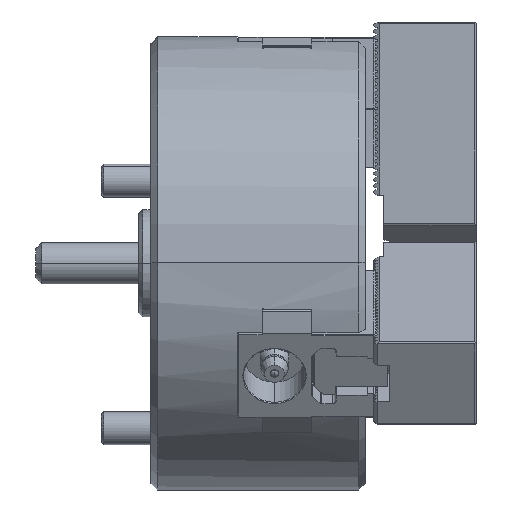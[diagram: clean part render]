
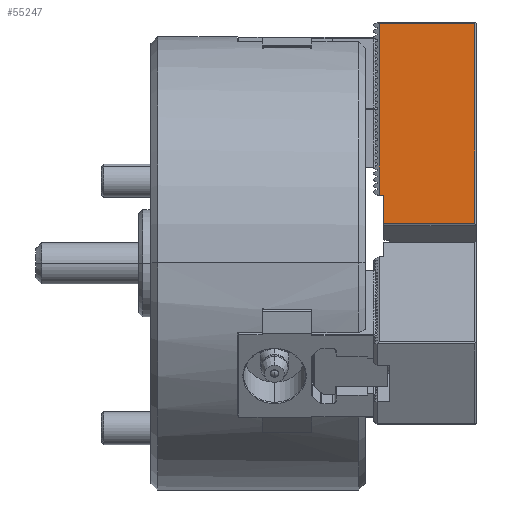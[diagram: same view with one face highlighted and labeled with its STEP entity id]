
A CAD part, top view. The second image highlights one B-rep face of the part: STEP entity #55247.
In plain terms, the highlighted planar face has unit normal (0, 0, 1).
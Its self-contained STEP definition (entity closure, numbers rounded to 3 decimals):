
#2441 = VERTEX_POINT ( 'NONE', #17924 ) ;
#2559 = FACE_OUTER_BOUND ( 'NONE', #30370, .T. ) ;
#5018 = CARTESIAN_POINT ( 'NONE',  ( 24.6, 6.174, 11.5 ) ) ;
#8119 = VECTOR ( 'NONE', #32956, 1000. ) ;
#8164 = DIRECTION ( 'NONE',  ( 0., 1., 0. ) ) ;
#8533 = CARTESIAN_POINT ( 'NONE',  ( 1.4, 13., 11.5 ) ) ;
#8737 = AXIS2_PLACEMENT_3D ( 'NONE', #32333, #51120, #56604 ) ;
#14939 = EDGE_CURVE ( 'NONE', #42494, #41003, #38449, .T. ) ;
#15314 = CARTESIAN_POINT ( 'NONE',  ( 2.5, 0., 11.5 ) ) ;
#16061 = DIRECTION ( 'NONE',  ( 0., -1., 0. ) ) ;
#16218 = VECTOR ( 'NONE', #16061, 1000. ) ;
#16450 = CARTESIAN_POINT ( 'NONE',  ( 1.4, 55., 11.5 ) ) ;
#17924 = CARTESIAN_POINT ( 'NONE',  ( 1.4, 54.6, 11.5 ) ) ;
#19832 = EDGE_CURVE ( 'NONE', #62821, #25604, #64647, .T. ) ;
#22316 = LINE ( 'NONE', #16450, #16218 ) ;
#25604 = VERTEX_POINT ( 'NONE', #8533 ) ;
#27485 = ORIENTED_EDGE ( 'NONE', *, *, #58975, .T. ) ;
#27997 = EDGE_CURVE ( 'NONE', #41003, #62821, #39160, .T. ) ;
#29492 = ORIENTED_EDGE ( 'NONE', *, *, #57022, .T. ) ;
#30370 = EDGE_LOOP ( 'NONE', ( #53691, #29492, #27485, #56934, #57299, #39311 ) ) ;
#30584 = VERTEX_POINT ( 'NONE', #63276 ) ;
#32333 = CARTESIAN_POINT ( 'NONE',  ( 25., 6.174, 11.5 ) ) ;
#32956 = DIRECTION ( 'NONE',  ( -1., 0., 0. ) ) ;
#38449 = LINE ( 'NONE', #56091, #8119 ) ;
#39160 = LINE ( 'NONE', #15314, #40927 ) ;
#39311 = ORIENTED_EDGE ( 'NONE', *, *, #27997, .F. ) ;
#39537 = CARTESIAN_POINT ( 'NONE',  ( 2.5, 13., 11.5 ) ) ;
#40927 = VECTOR ( 'NONE', #75609, 1000. ) ;
#41003 = VERTEX_POINT ( 'NONE', #65838 ) ;
#42393 = VECTOR ( 'NONE', #52078, 1000. ) ;
#42494 = VERTEX_POINT ( 'NONE', #5018 ) ;
#43748 = VECTOR ( 'NONE', #8164, 1000. ) ;
#44170 = LINE ( 'NONE', #69277, #43748 ) ;
#44469 = PLANE ( 'NONE',  #8737 ) ;
#51120 = DIRECTION ( 'NONE',  ( 0., 0., -1. ) ) ;
#52078 = DIRECTION ( 'NONE',  ( -1., 0., 0. ) ) ;
#53691 = ORIENTED_EDGE ( 'NONE', *, *, #14939, .F. ) ;
#54992 = LINE ( 'NONE', #66401, #63163 ) ;
#55247 = ADVANCED_FACE ( 'NONE', ( #2559 ), #44469, .F. ) ;
#56091 = CARTESIAN_POINT ( 'NONE',  ( 25., 6.174, 11.5 ) ) ;
#56604 = DIRECTION ( 'NONE',  ( 0., 1., 0. ) ) ;
#56786 = EDGE_CURVE ( 'NONE', #2441, #25604, #22316, .T. ) ;
#56934 = ORIENTED_EDGE ( 'NONE', *, *, #56786, .T. ) ;
#57022 = EDGE_CURVE ( 'NONE', #42494, #30584, #44170, .T. ) ;
#57299 = ORIENTED_EDGE ( 'NONE', *, *, #19832, .F. ) ;
#57811 = CARTESIAN_POINT ( 'NONE',  ( 2.5, 13., 11.5 ) ) ;
#58975 = EDGE_CURVE ( 'NONE', #30584, #2441, #54992, .T. ) ;
#62821 = VERTEX_POINT ( 'NONE', #57811 ) ;
#63163 = VECTOR ( 'NONE', #72663, 1000. ) ;
#63276 = CARTESIAN_POINT ( 'NONE',  ( 24.6, 54.6, 11.5 ) ) ;
#64647 = LINE ( 'NONE', #39537, #42393 ) ;
#65838 = CARTESIAN_POINT ( 'NONE',  ( 2.5, 6.174, 11.5 ) ) ;
#66401 = CARTESIAN_POINT ( 'NONE',  ( 25., 54.6, 11.5 ) ) ;
#69277 = CARTESIAN_POINT ( 'NONE',  ( 24.6, 6.174, 11.5 ) ) ;
#72663 = DIRECTION ( 'NONE',  ( -1., 0., 0. ) ) ;
#75609 = DIRECTION ( 'NONE',  ( 0., 1., 0. ) ) ;
